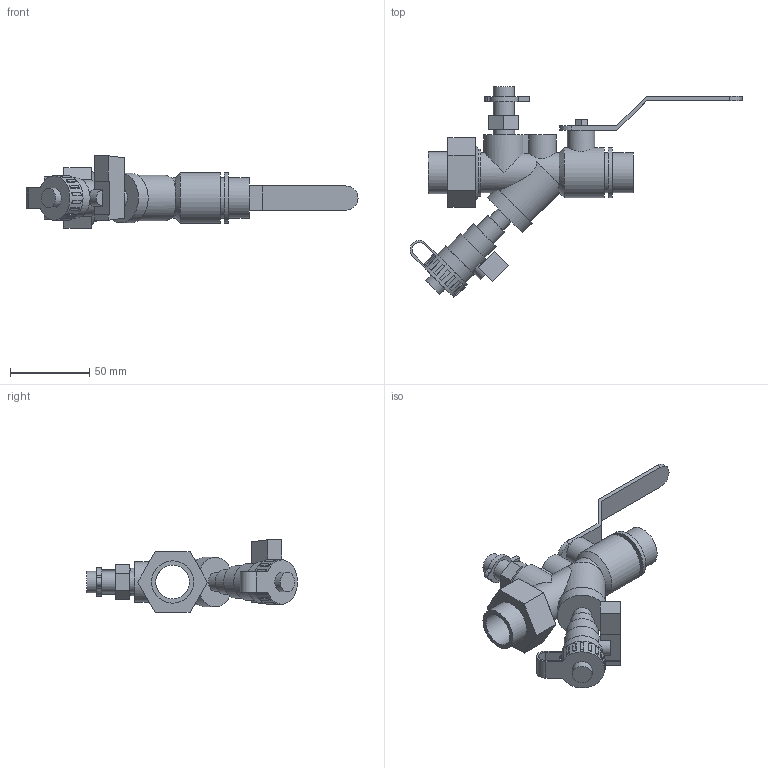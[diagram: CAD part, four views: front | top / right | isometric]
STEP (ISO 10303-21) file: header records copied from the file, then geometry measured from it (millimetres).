
FILE_DESCRIPTION(/* description */ ('VIC Y-STRAINER/BALL SERIES 78Y (FPT)','CAx-IF Rec.Pracs.---Representation and Presentation of Product Manufacturing Information (PMI)---4.0---2014-10-13'),/* implementation_level */ '2;1');
FILE_NAME(/* name */ 'C:\Users\kkamble\Desktop\extraction\OldVersions\Victaulic_IPS_Valve Ball Y Strainer Combination_Series 78Y (FPT)\Victaulic_IPS_Valve Ball Y Strainer Combination_Series 78Y (FPT)_0.5x0.5 (15x15).stp',/* time_stamp */ '2020-10-19T10:38:29+05:00',/* author */ ('kkamble'),/* organization */ ('Victaulic'),/* preprocessor_version */ 'ST-DEVELOPER v17.2',/* originating_system */ 'Autodesk Inventor 2019',/* authorisation */ '');
FILE_SCHEMA (('AP242_MANAGED_MODEL_BASED_3D_ENGINEERING_MIM_LF { 1 0 10303 442 1 1 4 }'));
Length unit declared in the file: inch
Products named in the file (1): 78Y-0.5x0.5
Bounding box: 209.62 x 133.17 x 45.72 mm (x, y, z)
Volume: 101699.3 mm3; surface area: 46874.4 mm2
Topology: 2 solids, 3 shells, 210 faces, 519 edges, 352 vertices
Faces by surface type: plane 152, cylinder 56, cone 2
Full cylindrical faces by diameter (mm): 10.998 x1, 11.887 x1, 12.565 x1, 13.462 x3, 13.589 x2, 15.24 x1, 17.272 x1, 20.32 x1, 21.336 x2, 22.86 x1, 25.4 x4, 26.695 x1, 27.94 x1, 29.693 x1, 31.496 x1, 31.75 x2
Entity records: 6826 total; most frequent: CARTESIAN_POINT 1439, DIRECTION 1119, ORIENTED_EDGE 1038, EDGE_CURVE 519, AXIS2_PLACEMENT_3D 398, VERTEX_POINT 352, LINE 323, VECTOR 323
